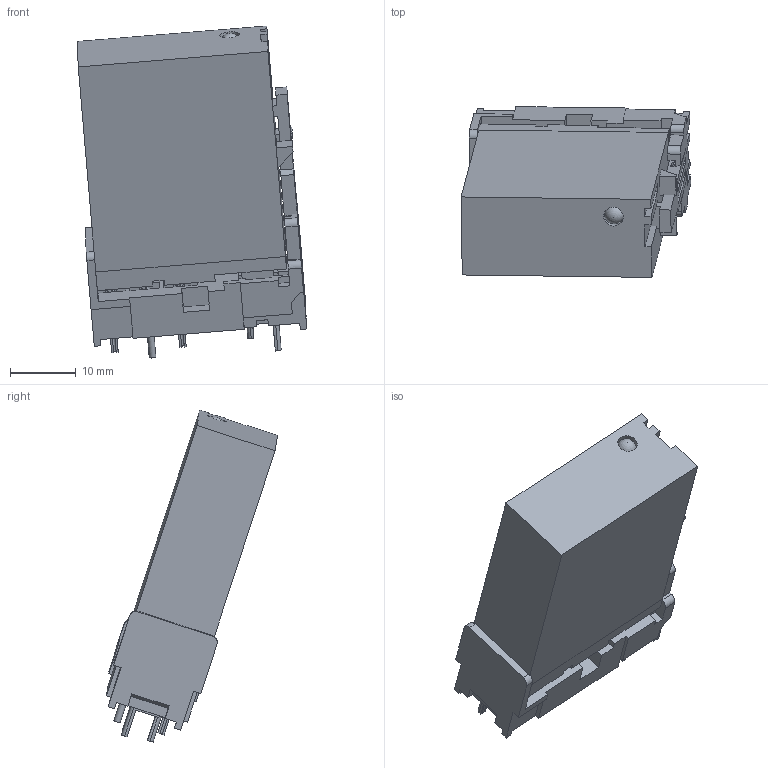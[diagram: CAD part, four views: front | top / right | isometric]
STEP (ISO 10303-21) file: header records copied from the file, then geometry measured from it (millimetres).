
FILE_DESCRIPTION(('STEP AP203'),'1');
FILE_NAME('KSO+KPD-6A.stp','2021-12-23T05:20:20',(' '),(' '),'Spatial InterOp 3D',' ',' ');
FILE_SCHEMA(('CONFIG_CONTROL_DESIGN'));
Length unit declared in the file: millimetre
Products named in the file (22): KSO__; ASSEM1; 零件3; __1; 零件1; 零件2; 零件4; 157f-1z-a1; 1007; 1002; 1001
Assembly tree (27 placements, depth 4):
  (unnamed)
    KSO__
      ASSEM1
      零件3  x2
      零件3  x2
      __1
        零件1
        零件2
        零件3
        零件4
      (unnamed)
      __1
        零件1
        零件2
        零件3
        零件4
      (unnamed)
      (unnamed)
    157f-1z-a1
      1007
      1002  x5
      1001
Bounding box: 35 x 26.1 x 50.59 mm (x, y, z)
Volume: 7126.9 mm3; surface area: 16807 mm2
Topology: 15 solids, 23 shells, 1590 faces, 4493 edges, 2985 vertices
Faces by surface type: plane 1274, cylinder 264, extrusion 41, torus 10, sphere 1
Full cylindrical faces by diameter (mm): 0.4 x20, 0.9 x2, 1.1 x3, 1.7 x2, 2.5 x1, 3 x2, 3.5 x1, 3.75 x2
Entity records: 36152 total; most frequent: CARTESIAN_POINT 6709, ORIENTED_EDGE 6062, DIRECTION 5438, EDGE_CURVE 3048, VECTOR 2732, LINE 2691, VERTEX_POINT 2033, AXIS2_PLACEMENT_3D 1353
